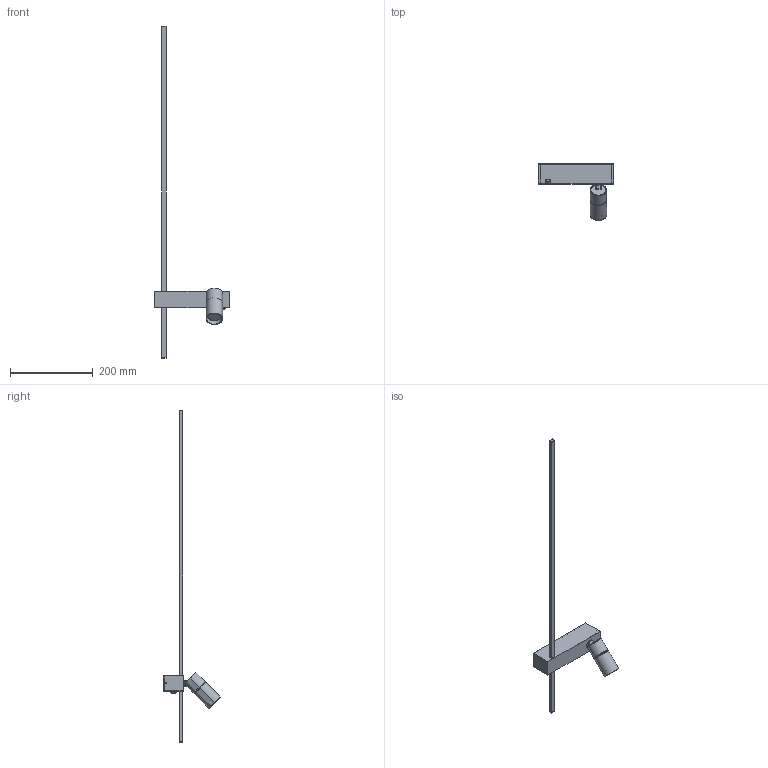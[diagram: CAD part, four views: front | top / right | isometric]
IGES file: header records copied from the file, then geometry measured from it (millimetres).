
Start section: SolidWorks IGES file using analytic representation for surfaces
Global section: file name: C:\Users\anna.bielnik\Desktop\EASY LEFT\EASY LEFT BLACK\EASY LEFT PM.IGS; native system: SolidWorks 2023; preprocessor: SolidWorks 2023; author: anna.bielnik; date: 241114.105300; units: millimetre
Bounding box: 180.1 x 138.77 x 804 mm (x, y, z)
Surface area: 160124.8 mm2 (no closed solid volume)
Topology: 0 solids, 0 shells, 584 faces, 5677 edges, 5676 vertices
Faces by surface type: bspline 427, revolution 157
